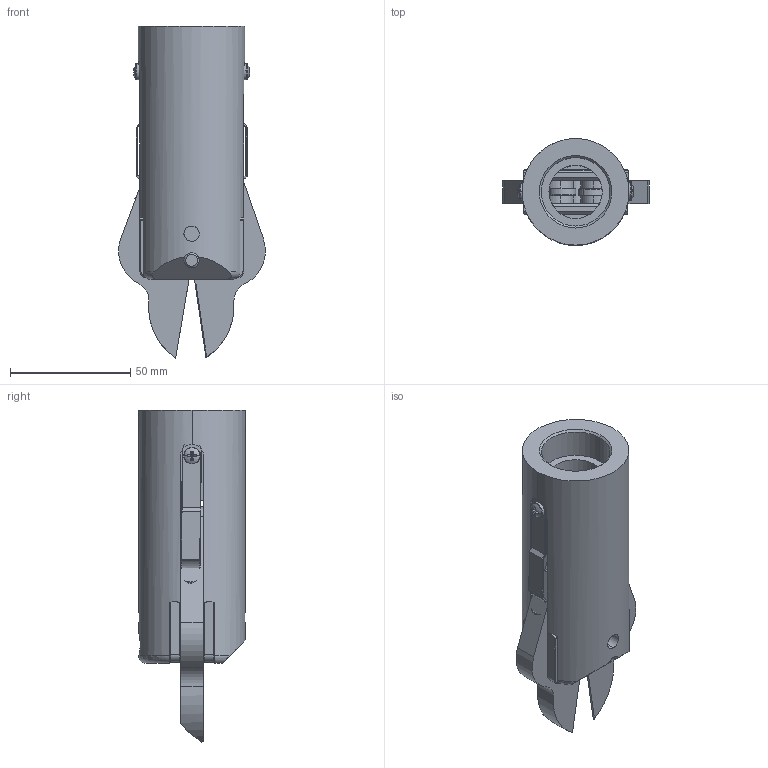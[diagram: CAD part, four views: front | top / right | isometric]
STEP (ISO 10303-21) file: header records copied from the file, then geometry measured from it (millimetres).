
FILE_DESCRIPTION (( 'STEP AP203' ), '1' );
FILE_NAME ('B-32.STEP', '2008-08-11T22:34:22', ( 'ANDREW' ), ( 'SIMONDS INC' ), 'SwSTEP 2.0', 'SolidWorks 2008', '' );
FILE_SCHEMA (( 'CONFIG_CONTROL_DESIGN' ));
Length unit declared in the file: inch
Products named in the file (11): 3-23; 502-3-C; 530-3-A; B-32R; B-32L; 3-20; 3-19-453; 3-41; CR-PHMS 0.138-32x0.188x0.188-N; HX-SHCS 0.25-20x1.25x1.25-N; B-32
Assembly tree (16 placements, depth 2):
  B-32
    HX-SHCS 0.25-20x1.25x1.25-N
    B-32L
    3-23  x2
    3-41  x2
    3-20  x2
    3-19-453  x2
    502-3-C
    B-32R
    CR-PHMS 0.138-32x0.188x0.188-N  x2
    530-3-A  x2
Bounding box: 61.17 x 44.45 x 138.31 mm (x, y, z)
Volume: 136750.1 mm3; surface area: 47106.6 mm2
Topology: 16 solids, 16 shells, 410 faces, 972 edges, 595 vertices
Faces by surface type: plane 159, cylinder 140, cone 66, torus 33, sphere 8, bspline 4
Entity records: 10070 total; most frequent: CARTESIAN_POINT 2034, DIRECTION 1502, ORIENTED_EDGE 1338, EDGE_CURVE 669, AXIS2_PLACEMENT_3D 581, VERTEX_POINT 417, VECTOR 340, LINE 340
